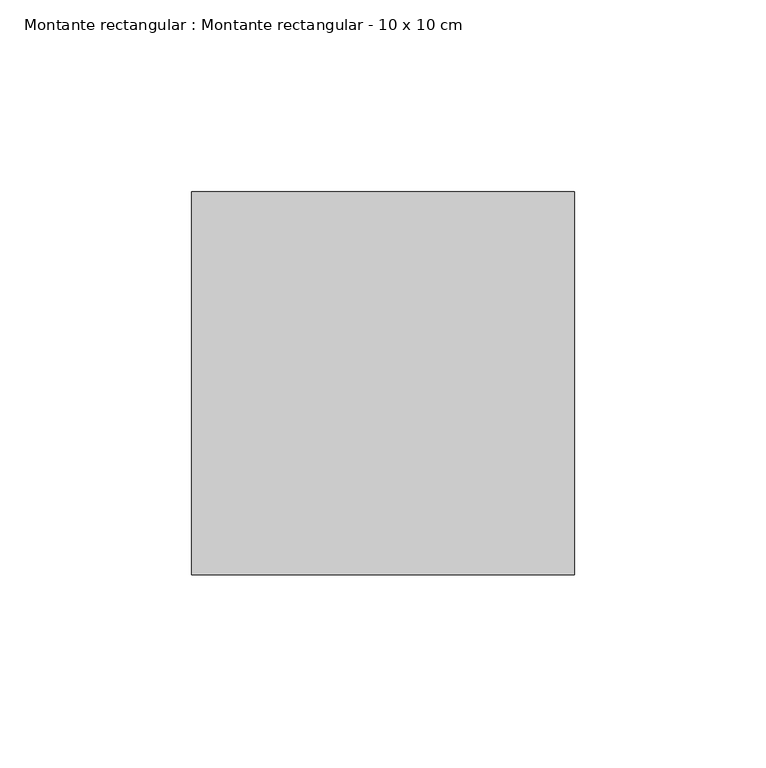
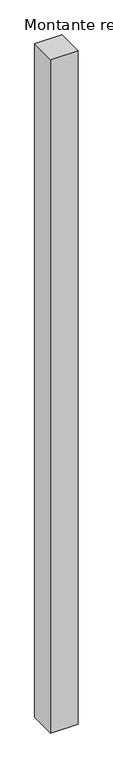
"""IFC4 building model written with IfcOpenShell, lengths in millimetres: member geometry, Montante rectangular : Montante rectangular - 10 x 10 cm."""

from ifc_helpers import new_model, si_unit, frame, origin, place, context, project, spatial, polyline, outline, extrude, source, transform, mapped, element, save


def montante_rectangular_montante_rectangular_10_x_10_cm_511e5c9e(model_context):
    return source(origin(), model_context, "Body", "SweptSolid", [
        extrude(outline(polyline([(-100.0, 50.0), (0.0, 50.0), (0.0, -50.0), (-100.0, -50.0), (-100.0, 50.0)])), frame((0.0, 0.0, -2600.0), z_axis=(0.0, 0.0, 1.0), x_axis=(1.0, 0.0, 0.0)), (0.0, 0.0, 1.0), 2600.0),
    ])


if __name__ == "__main__":
    model = new_model("IFC4")
    model_context = context("Model", 3, world=origin())
    ifc_project = project(units=[si_unit("LENGTHUNIT", "METRE", prefix="MILLI")], contexts=[model_context])
    site = spatial("IfcSite", under=ifc_project)
    building = spatial("IfcBuilding", under=site)
    placement = place(None, origin())
    montante_rectangular_montante_rectangular_10_x_10_cm_shape = montante_rectangular_montante_rectangular_10_x_10_cm_511e5c9e(model_context)
    element("IfcMember", 1, ObjectType="Montante rectangular : Montante rectangular - 10 x 10 cm", at=placement, inside=building, context=model_context, shape_type="MappedRepresentation", body=[
        mapped(montante_rectangular_montante_rectangular_10_x_10_cm_shape, transform((0.0, 0.0, 0.0), x_axis=(1.0, 0.0, 0.0), y_axis=(0.0, 1.0, 0.0), z_axis=(0.0, 0.0, 1.0))),
    ])
    save(model, "model.ifc")
